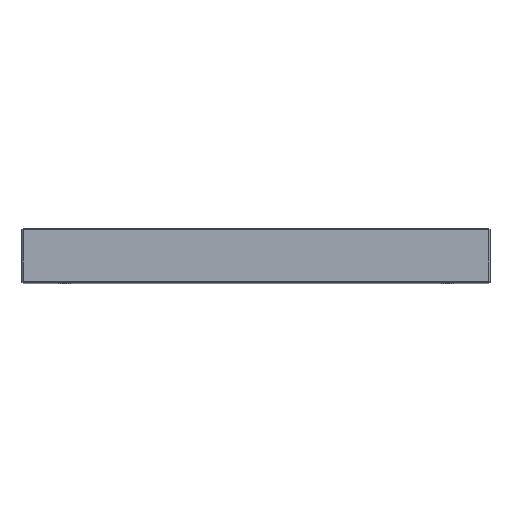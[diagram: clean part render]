
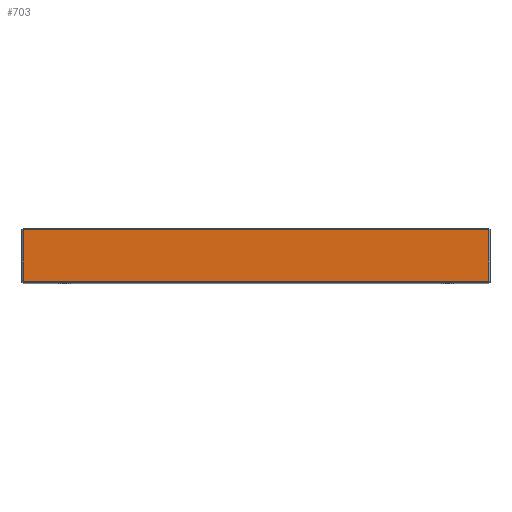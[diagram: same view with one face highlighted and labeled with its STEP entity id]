
A CAD part, top view. The second image highlights one B-rep face of the part: STEP entity #703.
In plain terms, the highlighted planar face has unit normal (0, 0, 1).
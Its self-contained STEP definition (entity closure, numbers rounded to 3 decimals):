
#238 = EDGE_LOOP ( 'NONE', ( #967, #1016, #1200, #1172 ) ) ;
#258 = VERTEX_POINT ( 'NONE', #2343 ) ;
#261 = CARTESIAN_POINT ( 'NONE',  ( 197., 46., 298. ) ) ;
#320 = LINE ( 'NONE', #1894, #1871 ) ;
#488 = DIRECTION ( 'NONE',  ( 1., 0., 0. ) ) ;
#502 = FACE_OUTER_BOUND ( 'NONE', #238, .T. ) ;
#523 = LINE ( 'NONE', #925, #1897 ) ;
#695 = VERTEX_POINT ( 'NONE', #1058 ) ;
#703 = ADVANCED_FACE ( 'NONE', ( #502 ), #1120, .F. ) ;
#725 = VERTEX_POINT ( 'NONE', #1410 ) ;
#925 = CARTESIAN_POINT ( 'NONE',  ( -197., 46., 298. ) ) ;
#957 = DIRECTION ( 'NONE',  ( 0., -1., 0. ) ) ;
#967 = ORIENTED_EDGE ( 'NONE', *, *, #1119, .T. ) ;
#1016 = ORIENTED_EDGE ( 'NONE', *, *, #1063, .T. ) ;
#1058 = CARTESIAN_POINT ( 'NONE',  ( 197., 45., 298. ) ) ;
#1063 = EDGE_CURVE ( 'NONE', #1488, #725, #523, .T. ) ;
#1119 = EDGE_CURVE ( 'NONE', #695, #1488, #320, .T. ) ;
#1120 = PLANE ( 'NONE',  #2266 ) ;
#1122 = CARTESIAN_POINT ( 'NONE',  ( 198., 46., 298. ) ) ;
#1153 = DIRECTION ( 'NONE',  ( 0., 1., 0. ) ) ;
#1172 = ORIENTED_EDGE ( 'NONE', *, *, #1792, .T. ) ;
#1174 = CARTESIAN_POINT ( 'NONE',  ( 198., 1., 298. ) ) ;
#1175 = DIRECTION ( 'NONE',  ( 0., 0., -1. ) ) ;
#1183 = DIRECTION ( 'NONE',  ( -1., 0., 0. ) ) ;
#1200 = ORIENTED_EDGE ( 'NONE', *, *, #1667, .T. ) ;
#1410 = CARTESIAN_POINT ( 'NONE',  ( -197., 1., 298. ) ) ;
#1488 = VERTEX_POINT ( 'NONE', #2142 ) ;
#1667 = EDGE_CURVE ( 'NONE', #725, #258, #2222, .T. ) ;
#1792 = EDGE_CURVE ( 'NONE', #258, #695, #2255, .T. ) ;
#1801 = VECTOR ( 'NONE', #1153, 1000. ) ;
#1871 = VECTOR ( 'NONE', #1875, 1000. ) ;
#1875 = DIRECTION ( 'NONE',  ( -1., 0., 0. ) ) ;
#1894 = CARTESIAN_POINT ( 'NONE',  ( -198., 45., 298. ) ) ;
#1897 = VECTOR ( 'NONE', #957, 1000. ) ;
#2142 = CARTESIAN_POINT ( 'NONE',  ( -197., 45., 298. ) ) ;
#2169 = VECTOR ( 'NONE', #488, 1000. ) ;
#2222 = LINE ( 'NONE', #1174, #2169 ) ;
#2255 = LINE ( 'NONE', #261, #1801 ) ;
#2266 = AXIS2_PLACEMENT_3D ( 'NONE', #1122, #1175, #1183 ) ;
#2343 = CARTESIAN_POINT ( 'NONE',  ( 197., 1., 298. ) ) ;
